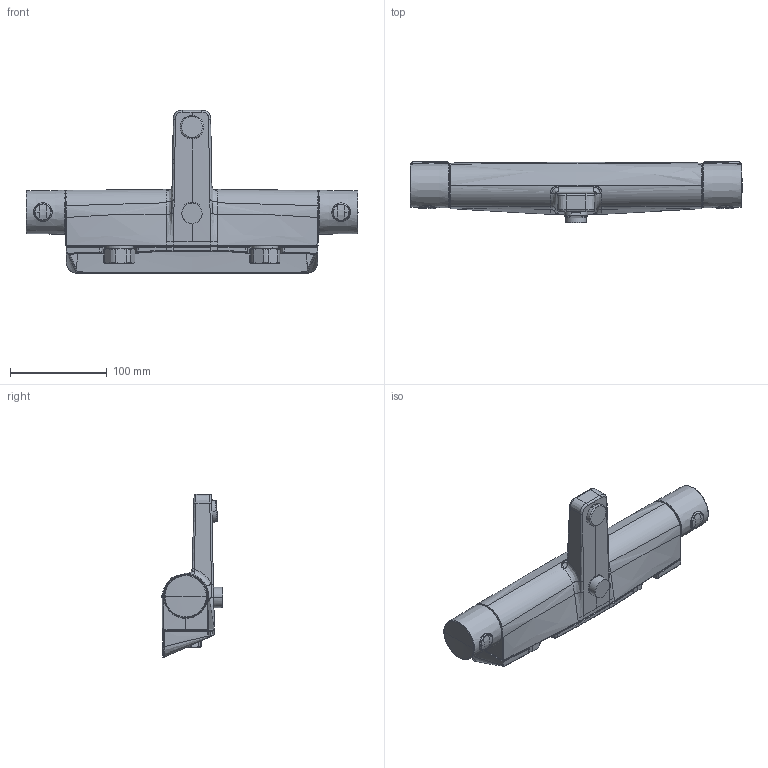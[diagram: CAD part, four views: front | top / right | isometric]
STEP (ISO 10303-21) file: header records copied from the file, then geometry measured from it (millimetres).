
FILE_DESCRIPTION (( 'STEP AP203' ), '1' );
FILE_NAME ('7140GN(2023).STEP', '2023-03-28T07:59:16', ( '' ), ( '' ), 'SwSTEP 2.0', 'SolidWorks 2016', '' );
FILE_SCHEMA (( 'CONFIG_CONTROL_DESIGN' ));
Length unit declared in the file: millimetre
Products named in the file (1): 7140GN(2023)
Bounding box: 342.5 x 63.41 x 168.22 mm (x, y, z)
Surface area: 128507.6 mm2 (no closed solid volume)
Topology: 0 solids, 2 shells, 561 faces, 1376 edges, 818 vertices
Faces by surface type: bspline 372, cylinder 78, plane 61, cone 44, sphere 4, torus 2
Entity records: 41804 total; most frequent: CARTESIAN_POINT 31604, ORIENTED_EDGE 2716, EDGE_CURVE 1360, DIRECTION 1200, VERTEX_POINT 818, B_SPLINE_CURVE_WITH_KNOTS 789, EDGE_LOOP 582, ADVANCED_FACE 561
